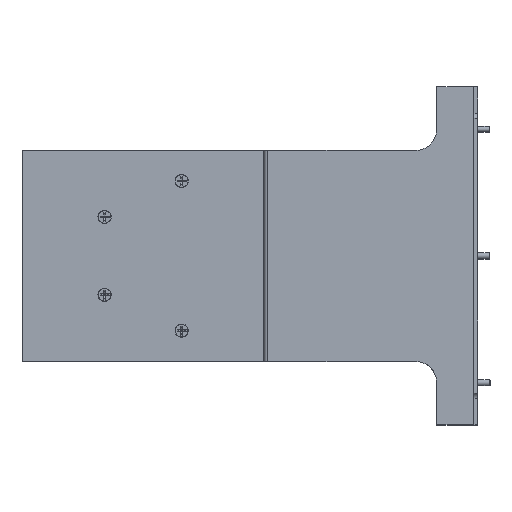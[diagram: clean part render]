
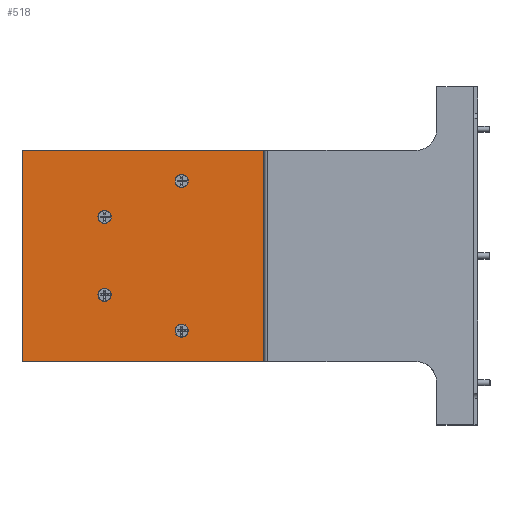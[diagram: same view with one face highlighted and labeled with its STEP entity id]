
A CAD part, left-side view. The second image highlights one B-rep face of the part: STEP entity #518.
In plain terms, the highlighted planar face has unit normal (-1, 0, 0) as drawn and (0, 0, 1) by its records, which use the part's own axes.
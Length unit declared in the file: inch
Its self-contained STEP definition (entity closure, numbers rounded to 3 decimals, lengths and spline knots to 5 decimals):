
#180=CARTESIAN_POINT('',(5.55725,-5.31775,-2.97));
#181=VERTEX_POINT('',#180);
#182=CARTESIAN_POINT('',(5.39975,-5.31775,-2.97));
#183=DIRECTION('',(0.0,0.0,-1.0));
#184=DIRECTION('',(1.0,0.0,0.0));
#185=AXIS2_PLACEMENT_3D('',#182,#183,#184);
#186=CIRCLE('',#185,0.1575);
#187=EDGE_CURVE('',#181,#181,#186,.T.);
#208=CARTESIAN_POINT('',(5.55725,-1.77575,-2.97));
#209=VERTEX_POINT('',#208);
#210=CARTESIAN_POINT('',(5.39975,-1.77575,-2.97));
#211=DIRECTION('',(0.0,0.0,-1.0));
#212=DIRECTION('',(1.0,0.0,0.0));
#213=AXIS2_PLACEMENT_3D('',#210,#211,#212);
#214=CIRCLE('',#213,0.1575);
#215=EDGE_CURVE('',#209,#209,#214,.T.);
#236=CARTESIAN_POINT('',(7.38025,-2.62475,-2.97));
#237=VERTEX_POINT('',#236);
#238=CARTESIAN_POINT('',(7.22275,-2.62475,-2.97));
#239=DIRECTION('',(0.0,0.0,-1.0));
#240=DIRECTION('',(1.0,0.0,0.0));
#241=AXIS2_PLACEMENT_3D('',#238,#239,#240);
#242=CIRCLE('',#241,0.1575);
#243=EDGE_CURVE('',#237,#237,#242,.T.);
#264=CARTESIAN_POINT('',(7.38025,-4.46875,-2.97));
#265=VERTEX_POINT('',#264);
#266=CARTESIAN_POINT('',(7.22275,-4.46875,-2.97));
#267=DIRECTION('',(0.0,0.0,-1.0));
#268=DIRECTION('',(1.0,0.0,0.0));
#269=AXIS2_PLACEMENT_3D('',#266,#267,#268);
#270=CIRCLE('',#269,0.1575);
#271=EDGE_CURVE('',#265,#265,#270,.T.);
#281=CARTESIAN_POINT('',(3.45975,-1.05075,-2.97));
#282=VERTEX_POINT('',#281);
#283=CARTESIAN_POINT('',(3.45975,-6.04275,-2.97));
#284=VERTEX_POINT('',#283);
#285=CARTESIAN_POINT('',(3.45975,-1.05075,-2.97));
#286=DIRECTION('',(0.0,-1.0,0.0));
#287=VECTOR('',#286,4.992);
#288=LINE('',#285,#287);
#289=EDGE_CURVE('',#282,#284,#288,.T.);
#339=CARTESIAN_POINT('',(9.17775,-6.04275,-2.97));
#340=VERTEX_POINT('',#339);
#347=CARTESIAN_POINT('',(9.17775,-6.04275,-2.97));
#348=DIRECTION('',(-1.0,0.0,0.0));
#349=VECTOR('',#348,5.718);
#350=LINE('',#347,#349);
#351=EDGE_CURVE('',#340,#284,#350,.T.);
#460=CARTESIAN_POINT('',(9.17775,-1.05075,-2.97));
#461=VERTEX_POINT('',#460);
#462=CARTESIAN_POINT('',(3.45975,-1.05075,-2.97));
#463=DIRECTION('',(1.0,0.0,0.0));
#464=VECTOR('',#463,5.718);
#465=LINE('',#462,#464);
#466=EDGE_CURVE('',#282,#461,#465,.T.);
#483=CARTESIAN_POINT('',(9.17775,-1.05075,-2.97));
#484=DIRECTION('',(0.0,-1.0,0.0));
#485=VECTOR('',#484,4.992);
#486=LINE('',#483,#485);
#487=EDGE_CURVE('',#461,#340,#486,.T.);
#495=CARTESIAN_POINT('',(6.29761,-3.54675,-2.97));
#496=DIRECTION('',(0.0,0.0,1.0));
#497=DIRECTION('',(1.0,0.0,0.0));
#498=AXIS2_PLACEMENT_3D('',#495,#496,#497);
#499=PLANE('',#498);
#500=ORIENTED_EDGE('',*,*,#289,.T.);
#501=ORIENTED_EDGE('',*,*,#351,.F.);
#502=ORIENTED_EDGE('',*,*,#487,.F.);
#503=ORIENTED_EDGE('',*,*,#466,.F.);
#504=EDGE_LOOP('',(#500,#501,#502,#503));
#505=FACE_OUTER_BOUND('',#504,.T.);
#506=ORIENTED_EDGE('',*,*,#187,.T.);
#507=EDGE_LOOP('',(#506));
#508=FACE_BOUND('',#507,.T.);
#509=ORIENTED_EDGE('',*,*,#215,.T.);
#510=EDGE_LOOP('',(#509));
#511=FACE_BOUND('',#510,.T.);
#512=ORIENTED_EDGE('',*,*,#243,.T.);
#513=EDGE_LOOP('',(#512));
#514=FACE_BOUND('',#513,.T.);
#515=ORIENTED_EDGE('',*,*,#271,.T.);
#516=EDGE_LOOP('',(#515));
#517=FACE_BOUND('',#516,.T.);
#518=ADVANCED_FACE('',(#505,#508,#511,#514,#517),#499,.T.);
